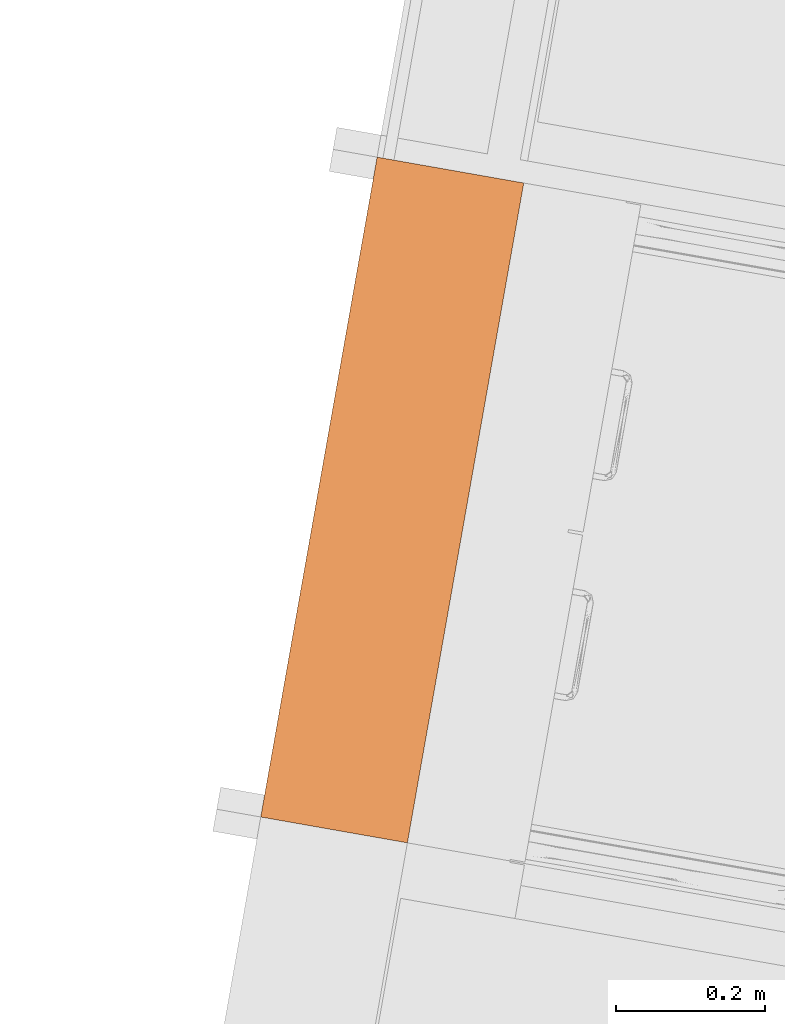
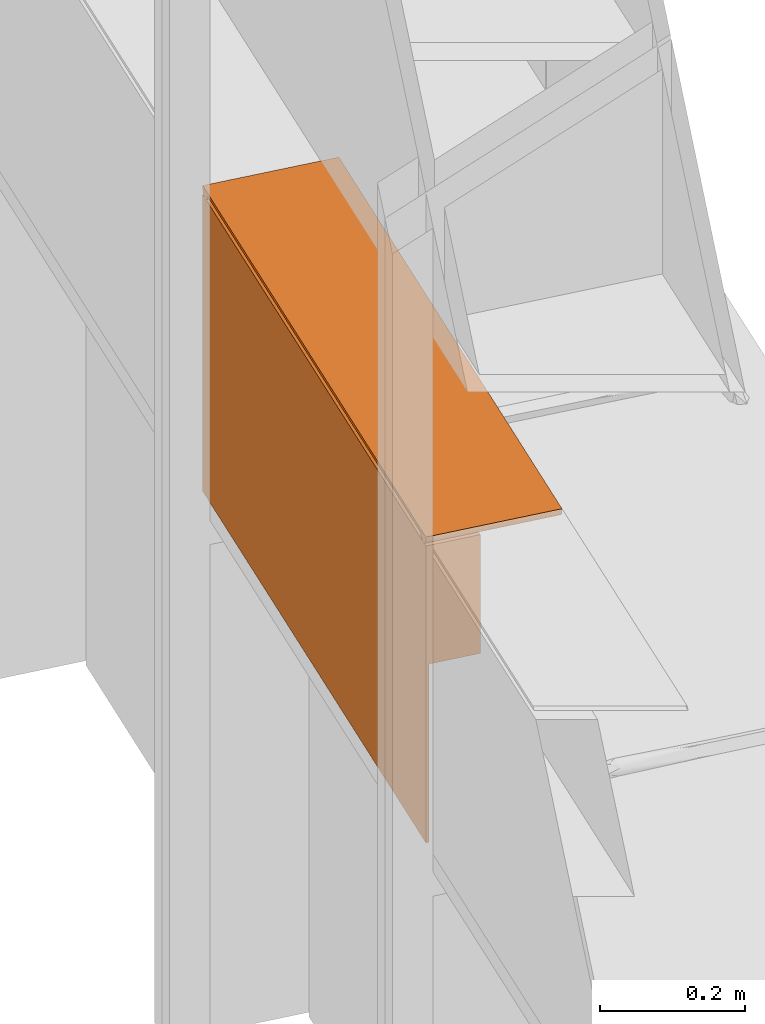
# One storey, part 14 of 43: 1 proxy.
"""IFC2X3 building model written with IfcOpenShell, lengths in metres."""

from ifc_helpers import new_model, entity, si_unit, converted_unit, derived_unit, direction, frame, frame_2d, origin, origin_2d_with_axis, place, context, subcontext, project, spatial, polyline, circle_curve, parameter, trimmed, segment, composite_curve, rectangle, outline, extrude, source, transform, mapped, material, material_list, type_object, type_shapes, element, save


model = new_model("IFC2X3")

# Units and contexts
model_context = context("Model", 3, precision=1e-05, world=origin(), true_north=direction((6.12303176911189e-17, 1.0)))
body_context = subcontext(model_context, "Body", "Model", "MODEL_VIEW")
ifc_project = project(units=[si_unit("LENGTHUNIT", "METRE"), si_unit("AREAUNIT", "SQUARE_METRE"), si_unit("VOLUMEUNIT", "CUBIC_METRE"), converted_unit("PLANEANGLEUNIT", "DEGREE", entity("IfcRatioMeasure", 0.0174532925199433), si_unit("PLANEANGLEUNIT", "RADIAN"), dimensions=[0, 0, 0, 0, 0, 0, 0]), si_unit("MASSUNIT", "GRAM", prefix="KILO"), derived_unit("MASSDENSITYUNIT", [(si_unit("MASSUNIT", "GRAM", prefix="KILO"), 1), (si_unit("LENGTHUNIT", "METRE"), -3)]), derived_unit("MOMENTOFINERTIAUNIT", [(si_unit("LENGTHUNIT", "METRE"), 4)]), si_unit("TIMEUNIT", "SECOND"), si_unit("FREQUENCYUNIT", "HERTZ"), si_unit("THERMODYNAMICTEMPERATUREUNIT", "DEGREE_CELSIUS"), derived_unit("THERMALTRANSMITTANCEUNIT", [(si_unit("MASSUNIT", "GRAM", prefix="KILO"), 1), (si_unit("THERMODYNAMICTEMPERATUREUNIT", "KELVIN"), -1), (si_unit("TIMEUNIT", "SECOND"), -3)]), derived_unit("VOLUMETRICFLOWRATEUNIT", [(si_unit("LENGTHUNIT", "METRE"), 3), (si_unit("TIMEUNIT", "SECOND"), -1)]), si_unit("ELECTRICCURRENTUNIT", "AMPERE"), si_unit("ELECTRICVOLTAGEUNIT", "VOLT"), si_unit("POWERUNIT", "WATT"), si_unit("FORCEUNIT", "NEWTON", prefix="KILO"), si_unit("ILLUMINANCEUNIT", "LUX"), si_unit("LUMINOUSFLUXUNIT", "LUMEN"), si_unit("LUMINOUSINTENSITYUNIT", "CANDELA"), derived_unit("USERDEFINED", [(si_unit("MASSUNIT", "GRAM", prefix="KILO"), -1), (si_unit("LENGTHUNIT", "METRE"), -2), (si_unit("TIMEUNIT", "SECOND"), 3), (si_unit("LUMINOUSFLUXUNIT", "LUMEN"), 1)]), derived_unit("LINEARVELOCITYUNIT", [(si_unit("LENGTHUNIT", "METRE"), 1), (si_unit("TIMEUNIT", "SECOND"), -1)]), si_unit("PRESSUREUNIT", "PASCAL"), derived_unit("USERDEFINED", [(si_unit("LENGTHUNIT", "METRE"), -2), (si_unit("MASSUNIT", "GRAM", prefix="KILO"), 1), (si_unit("TIMEUNIT", "SECOND"), -2)]), derived_unit("LINEARFORCEUNIT", [(si_unit("MASSUNIT", "GRAM", prefix="KILO"), 1), (si_unit("LENGTHUNIT", "METRE"), 1), (si_unit("TIMEUNIT", "SECOND"), -2), (si_unit("LENGTHUNIT", "METRE"), -1)]), derived_unit("PLANARFORCEUNIT", [(si_unit("MASSUNIT", "GRAM", prefix="KILO"), 1), (si_unit("LENGTHUNIT", "METRE"), 1), (si_unit("TIMEUNIT", "SECOND"), -2), (si_unit("LENGTHUNIT", "METRE"), -2)])], contexts=[model_context])

# Site, building, storey
site_placement = place(None, origin())
site = spatial("IfcSite", under=ifc_project, at=site_placement, Name="Default", CompositionType="ELEMENT")
building_placement = place(site_placement, origin())
building = spatial("IfcBuilding", under=site, at=building_placement, CompositionType="ELEMENT")
storey_placement = place(building_placement, frame((0.0, 0.0, 3.0)))
storey = spatial("IfcBuildingStorey", under=building, at=storey_placement, Name="01 OG", CompositionType="ELEMENT", Elevation=3.0)

# Proxy
ifc_material_1 = material(Name="dh_Weiß")
ifc_material_2 = material(Name="dh_Glas WHS")
ifc_material_3 = material(Name="dh_Blau")
ifc_material_list_1 = material_list([ifc_material_1, ifc_material_2, ifc_material_3])
ifc_material_list_2 = material_list([ifc_material_1, ifc_material_2, ifc_material_3])
building_element_proxy_type = type_object("IfcBuildingElementProxyType", Name="dh_Medienwand WHA:90 Stehtisch", PredefinedType="NOTDEFINED", material=ifc_material_list_2)
shared_shape = source(origin(), body_context, "Body", "SweptSolid", [
    extrude(outline(composite_curve([segment(trimmed(circle_curve(frame_2d((0.0, 0.0), x_axis=(-1.0, 0.0)), 0.01), [parameter(0.0)], [parameter(180.0)], True, "PARAMETER"), True, "CONTINUOUS"), segment(polyline([(0.01, 0.0), (-0.01, 0.0)]), True, "CONTINUOUS")], self_intersect=False)), frame((-0.589999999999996, 0.1, 1.40999999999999), z_axis=(0.0, -1.0, 0.0), x_axis=(1.0, 0.0, 0.0)), (0.0, 0.0, -1.0), 0.2),
    extrude(outline(composite_curve([segment(trimmed(circle_curve(origin_2d_with_axis(), 0.00999999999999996), [parameter(0.0)], [parameter(180.0)], True, "PARAMETER"), True, "CONTINUOUS"), segment(polyline([(-0.0099999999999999, 0.0), (0.0099999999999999, 0.0)]), True, "CONTINUOUS")], self_intersect=False)), frame((0.290000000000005, 0.1, 1.40999999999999), z_axis=(0.0, 1.0, 0.0), x_axis=(1.0, 0.0, 0.0)), (0.0, 0.0, 1.0), 0.2),
    extrude(rectangle(XDim=0.9, YDim=0.2, at=origin_2d_with_axis()), frame((-0.149999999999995, 0.2, 1.40999999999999), z_axis=(0.0, 0.0, 1.0), x_axis=(-1.0, 0.0, 0.0)), (0.0, 0.0, 1.0), 0.00499999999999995),
    extrude(rectangle(XDim=0.00500000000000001, YDim=0.9, at=frame_2d((-3.38271077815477e-17, -5.55111512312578e-17), x_axis=(1.0, 0.0))), frame((-0.15, 0.2975, 0.900000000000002), z_axis=(0.0, 0.0, 1.0), x_axis=(0.0, 1.0, 0.0)), (0.0, 0.0, 1.0), 0.299999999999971),
    extrude(rectangle(XDim=0.9, YDim=0.08, at=frame_2d((0.0, 3.46944695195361e-17), x_axis=(1.0, 0.0))), frame((-0.15, 0.26, 1.20000000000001), z_axis=(0.0, 0.0, 1.0), x_axis=(-1.0, 0.0, 0.0)), (0.0, 0.0, 1.0), 0.199999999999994),
])
type_shapes(building_element_proxy_type, [shared_shape])
proxy_placement = place(storey_placement, frame((23.0129169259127, 10.3235470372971, 0.0), z_axis=(0.0, 0.0, 1.0), x_axis=(0.173648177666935, 0.984807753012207, 0.0)))
element("IfcBuildingElementProxy", 1, at=proxy_placement, inside=storey, type_object=building_element_proxy_type, material=ifc_material_list_1, Name="dh_Medienwand WHA:90 Stehtisch", ObjectType="dh_Medienwand WHA:90 Stehtisch", context=body_context, shape_type="MappedRepresentation", body=[
    mapped(shared_shape, transform((0.0, 0.0, 0.0), scale=1.0)),
])

save(model, "model.ifc")
